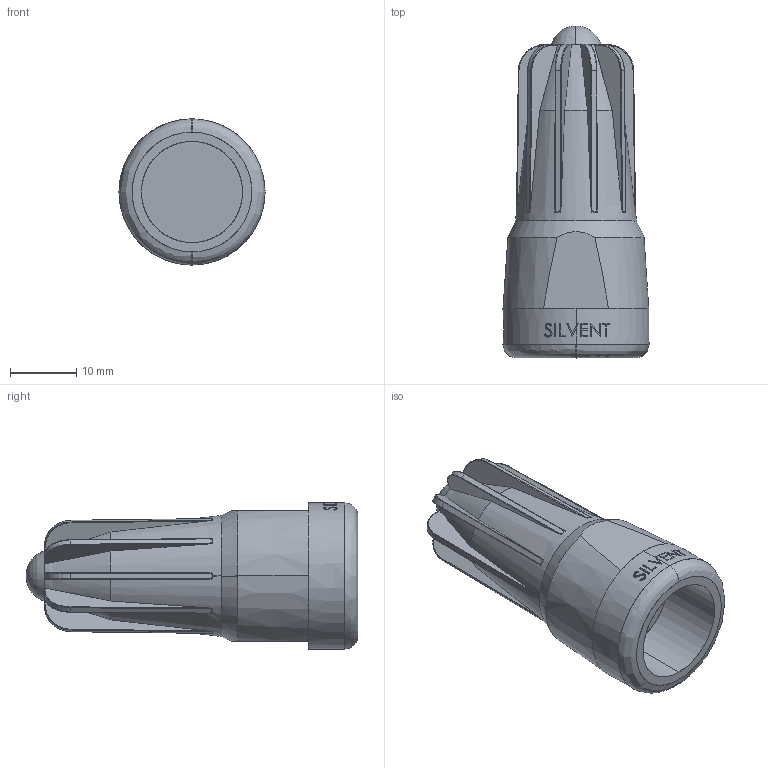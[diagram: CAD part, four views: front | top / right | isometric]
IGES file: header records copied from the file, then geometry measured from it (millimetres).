
Start section: SolidWorks IGES FILE using analytic representation for surfaces
Global section: file name: G:\Silvent\Ritningar\Övrigt\IGES\Silvent 208.IGS; native system: SolidWorks 2003 by SolidWorks Corporation; preprocessor: Version 5.3; author: Ulf; date: 030923.133418; units: millimetre
Bounding box: 22.1 x 50.2 x 22.1 mm (x, y, z)
Surface area: 4385.5 mm2 (no closed solid volume)
Topology: 0 solids, 0 shells, 259 faces, 2237 edges, 2235 vertices
Faces by surface type: bspline 174, revolution 85
